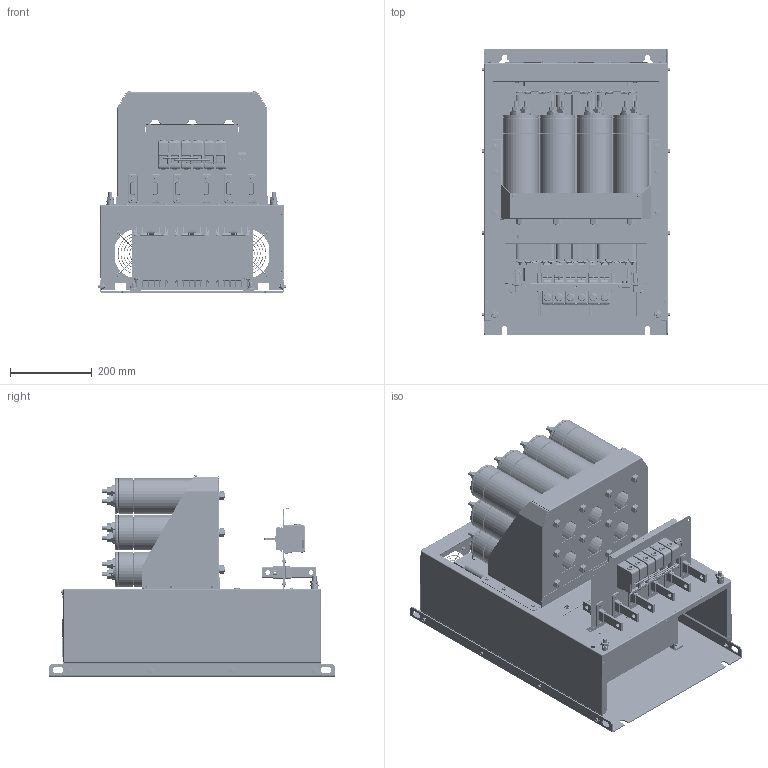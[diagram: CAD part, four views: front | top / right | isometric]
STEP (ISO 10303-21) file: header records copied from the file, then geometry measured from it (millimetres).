
FILE_DESCRIPTION(/* description */ (''),/* implementation_level */ '2;1');
FILE_NAME(/* name */ 'C:\Users\Erika.Jenzer\OneDrive - Schaffner EMV AG\Desktop\Neuer Ordner (2)\Plutus Reactors purchasing\CUSTOMER FS G IP00 12 CAPS.stp',/* time_stamp */ '2023-12-07T09:30:02+01:00',/* author */ ('erika.jenzer'),/* organization */ (''),/* preprocessor_version */ 'ST-DEVELOPER v18.1',/* originating_system */ 'Autodesk Inventor 2020',/* authorisation */ '');
FILE_SCHEMA (('AUTOMOTIVE_DESIGN { 1 0 10303 214 3 1 1 }'));
Products named in the file (1): CUSTOMER FS G IP00 12 CAPS
Bounding box: 459.59 x 700 x 492.95 mm (x, y, z)
Volume: 39699883.2 mm3; surface area: 4535008 mm2
Topology: 26 solids, 26 shells, 15695 faces, 41409 edges, 25934 vertices
Faces by surface type: plane 8527, cylinder 3844, bspline 1886, torus 702, cone 652, sphere 84
Full cylindrical faces by diameter (mm): 1 x2, 1.2 x1, 1.5 x1, 2.8 x6, 3.242 x8, 3.5 x4, 4 x78, 4.1 x17, 4.3 x10, 4.5 x48, 4.881 x6, 5.4 x6, 5.5 x16, 6 x28, 6.5 x10, 7 x2, 7.9 x16, 8 x27, 8.3 x6, 8.7 x10, 9 x20, 9.188 x2, 9.9 x3, 10 x37, 10.5 x2, 11 x22, 11.05 x4, 12 x14, 12.5 x1, 12.7 x3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
Entity records: 608388 total; most frequent: CARTESIAN_POINT 207739, ORIENTED_EDGE 82518, DIRECTION 79561, EDGE_CURVE 41259, AXIS2_PLACEMENT_3D 27487, VERTEX_POINT 25934, LINE 24587, VECTOR 24587
